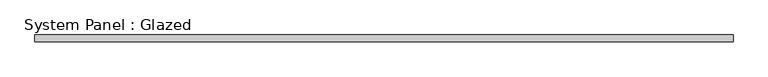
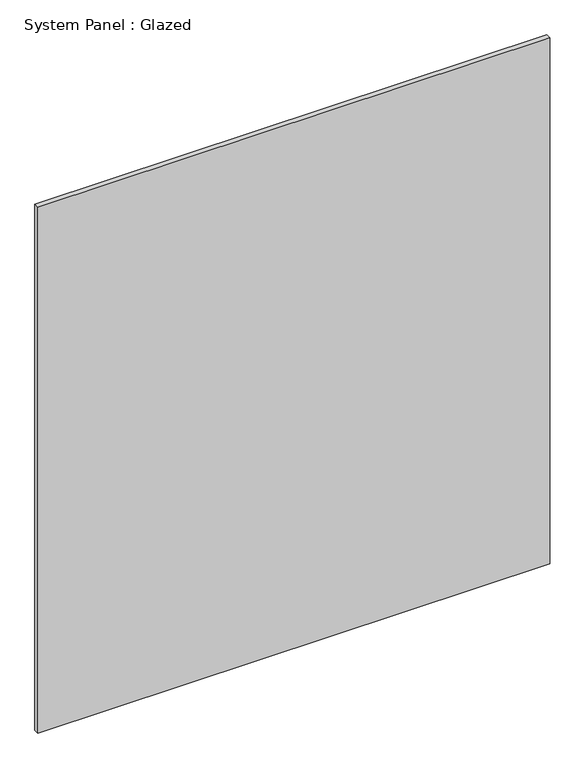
"""IFC4 building model written with IfcOpenShell, lengths in millimetres: plate geometry, System Panel : Glazed."""

from ifc_helpers import new_model, si_unit, origin, origin_with_axes, place, context, project, spatial, polyline, outline, extrude, source, transform, mapped, element, save


def system_panel_glazed_bd177dae(model_context):
    return source(origin(), model_context, "Body", "SweptSolid", [
        extrude(outline(polyline([(1312.5, -49.5), (-1312.5, -49.5), (-1312.5, -24.5), (1312.5, -24.5), (1312.5, -49.5)])), origin_with_axes(), (0.0, 0.0, 1.0), 2850.0),
    ])


if __name__ == "__main__":
    model = new_model("IFC4")
    model_context = context("Model", 3, world=origin())
    ifc_project = project(units=[si_unit("LENGTHUNIT", "METRE", prefix="MILLI")], contexts=[model_context])
    site = spatial("IfcSite", under=ifc_project)
    building = spatial("IfcBuilding", under=site)
    placement = place(None, origin())
    system_panel_glazed_shape = system_panel_glazed_bd177dae(model_context)
    element("IfcPlate", 1, ObjectType="System Panel : Glazed", at=placement, inside=building, context=model_context, shape_type="MappedRepresentation", body=[
        mapped(system_panel_glazed_shape, transform((0.0, 0.0, 0.0), x_axis=(1.0, 0.0, 0.0), y_axis=(0.0, 1.0, 0.0), z_axis=(0.0, 0.0, 1.0))),
    ])
    save(model, "model.ifc")
